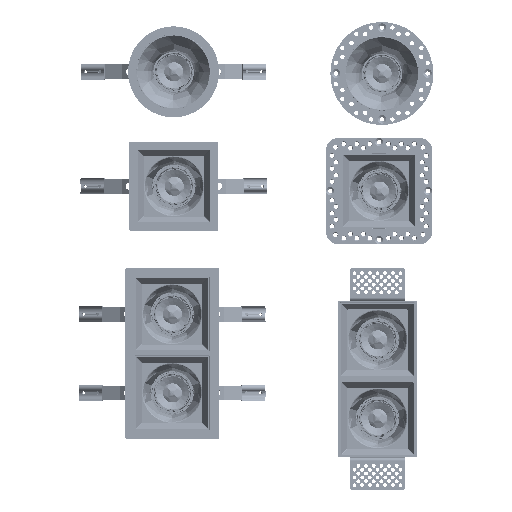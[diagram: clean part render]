
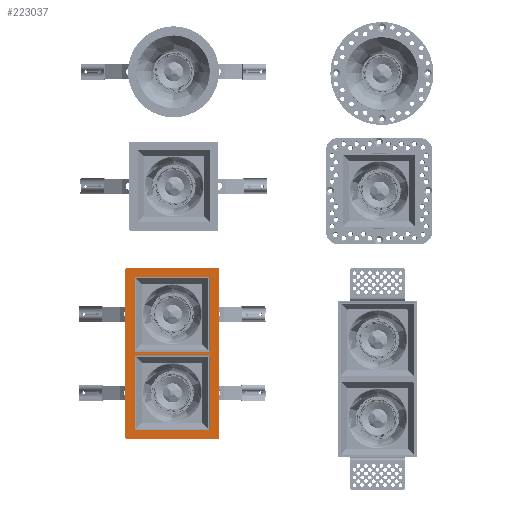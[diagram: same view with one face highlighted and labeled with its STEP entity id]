
A CAD part, front view. The second image highlights one B-rep face of the part: STEP entity #223037.
In plain terms, the highlighted planar face has unit normal (0, -1, 0) as drawn and (0, 0, 1) by its records, which use the part's own axes.
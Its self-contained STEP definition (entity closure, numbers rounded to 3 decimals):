
#1098 = VECTOR ( 'NONE', #60523, 1000. ) ;
#1870 = CARTESIAN_POINT ( 'NONE',  ( 34.6, -70.85, 0. ) ) ;
#2412 = CARTESIAN_POINT ( 'NONE',  ( 42., 78., 0. ) ) ;
#4848 = CARTESIAN_POINT ( 'NONE',  ( 0., 79., 0. ) ) ;
#6542 = DIRECTION ( 'NONE',  ( 0., -1., 0. ) ) ;
#11024 = EDGE_CURVE ( 'NONE', #129749, #217810, #26084, .T. ) ;
#12544 = EDGE_CURVE ( 'NONE', #213336, #33779, #70392, .T. ) ;
#13937 = LINE ( 'NONE', #204328, #71820 ) ;
#14161 = DIRECTION ( 'NONE',  ( 0., 0., -1. ) ) ;
#15219 = EDGE_CURVE ( 'NONE', #241165, #108818, #231488, .T. ) ;
#16939 = EDGE_CURVE ( 'NONE', #243667, #53776, #159318, .T. ) ;
#17371 = PLANE ( 'NONE',  #62013 ) ;
#24857 = CARTESIAN_POINT ( 'NONE',  ( 0., 1.65, 0. ) ) ;
#26084 = LINE ( 'NONE', #24857, #175298 ) ;
#26487 = EDGE_CURVE ( 'NONE', #217810, #166205, #13937, .T. ) ;
#26966 = VERTEX_POINT ( 'NONE', #187889 ) ;
#28302 = LINE ( 'NONE', #177864, #230478 ) ;
#29411 = CARTESIAN_POINT ( 'NONE',  ( 43., 78., 0. ) ) ;
#31636 = CIRCLE ( 'NONE', #201384, 1. ) ;
#32777 = CARTESIAN_POINT ( 'NONE',  ( -42., 78., 0. ) ) ;
#33160 = VECTOR ( 'NONE', #221301, 1000. ) ;
#33779 = VERTEX_POINT ( 'NONE', #235472 ) ;
#34841 = LINE ( 'NONE', #228553, #62262 ) ;
#37009 = VECTOR ( 'NONE', #81787, 1000. ) ;
#40568 = ORIENTED_EDGE ( 'NONE', *, *, #180103, .F. ) ;
#41635 = VERTEX_POINT ( 'NONE', #162244 ) ;
#42305 = ORIENTED_EDGE ( 'NONE', *, *, #106978, .F. ) ;
#47376 = CIRCLE ( 'NONE', #78883, 1. ) ;
#47808 = ORIENTED_EDGE ( 'NONE', *, *, #98203, .F. ) ;
#48511 = DIRECTION ( 'NONE',  ( 0., 0., -1. ) ) ;
#48735 = ORIENTED_EDGE ( 'NONE', *, *, #211602, .F. ) ;
#49126 = CARTESIAN_POINT ( 'NONE',  ( -42., -78., 0. ) ) ;
#51911 = EDGE_LOOP ( 'NONE', ( #42305, #227981, #181948, #69615 ) ) ;
#52532 = DIRECTION ( 'NONE',  ( 1., 0., 0. ) ) ;
#53776 = VERTEX_POINT ( 'NONE', #29411 ) ;
#56925 = FACE_BOUND ( 'NONE', #51911, .T. ) ;
#57014 = EDGE_LOOP ( 'NONE', ( #81157, #174429, #161277, #48735, #88906, #40568, #97460, #143636 ) ) ;
#59311 = DIRECTION ( 'NONE',  ( 1., 0., 0. ) ) ;
#60456 = CARTESIAN_POINT ( 'NONE',  ( 42., -79., 0. ) ) ;
#60523 = DIRECTION ( 'NONE',  ( 1., 0., 0. ) ) ;
#61961 = CARTESIAN_POINT ( 'NONE',  ( -34.6, -1.65, 0. ) ) ;
#62013 = AXIS2_PLACEMENT_3D ( 'NONE', #241277, #225133, #184295 ) ;
#62262 = VECTOR ( 'NONE', #183144, 1000. ) ;
#62452 = DIRECTION ( 'NONE',  ( 0., -1., 0. ) ) ;
#67519 = VECTOR ( 'NONE', #73848, 1000. ) ;
#68840 = DIRECTION ( 'NONE',  ( 1., 0., 0. ) ) ;
#69615 = ORIENTED_EDGE ( 'NONE', *, *, #160097, .F. ) ;
#70392 = LINE ( 'NONE', #145808, #33160 ) ;
#71820 = VECTOR ( 'NONE', #106656, 1000. ) ;
#73848 = DIRECTION ( 'NONE',  ( -1., 0., 0. ) ) ;
#78883 = AXIS2_PLACEMENT_3D ( 'NONE', #216631, #48511, #159732 ) ;
#79798 = ORIENTED_EDGE ( 'NONE', *, *, #89528, .F. ) ;
#79801 = VECTOR ( 'NONE', #6542, 1000. ) ;
#81157 = ORIENTED_EDGE ( 'NONE', *, *, #88770, .F. ) ;
#81787 = DIRECTION ( 'NONE',  ( 1., 0., 0. ) ) ;
#82211 = CARTESIAN_POINT ( 'NONE',  ( 34.6, 70.85, 0. ) ) ;
#84298 = AXIS2_PLACEMENT_3D ( 'NONE', #2412, #154444, #59311 ) ;
#87323 = VERTEX_POINT ( 'NONE', #135430 ) ;
#88151 = VERTEX_POINT ( 'NONE', #61961 ) ;
#88770 = EDGE_CURVE ( 'NONE', #33779, #26966, #101394, .T. ) ;
#88906 = ORIENTED_EDGE ( 'NONE', *, *, #16939, .F. ) ;
#89528 = EDGE_CURVE ( 'NONE', #41635, #129749, #34841, .T. ) ;
#91474 = CARTESIAN_POINT ( 'NONE',  ( -42., 79., 0. ) ) ;
#93837 = CARTESIAN_POINT ( 'NONE',  ( -43., -36.25, 0. ) ) ;
#97460 = ORIENTED_EDGE ( 'NONE', *, *, #138350, .F. ) ;
#98203 = EDGE_CURVE ( 'NONE', #166205, #41635, #172607, .T. ) ;
#98817 = CARTESIAN_POINT ( 'NONE',  ( 43., -78., 0. ) ) ;
#100481 = LINE ( 'NONE', #195678, #79801 ) ;
#101394 = CIRCLE ( 'NONE', #228030, 1. ) ;
#106456 = DIRECTION ( 'NONE',  ( -1., 0., 0. ) ) ;
#106656 = DIRECTION ( 'NONE',  ( 0., 1., 0. ) ) ;
#106978 = EDGE_CURVE ( 'NONE', #108818, #115872, #28302, .T. ) ;
#108818 = VERTEX_POINT ( 'NONE', #1870 ) ;
#114778 = DIRECTION ( 'NONE',  ( 0., 1., 0. ) ) ;
#115872 = VERTEX_POINT ( 'NONE', #217917 ) ;
#121329 = LINE ( 'NONE', #164536, #122997 ) ;
#122997 = VECTOR ( 'NONE', #106456, 1000. ) ;
#125535 = VECTOR ( 'NONE', #62452, 1000. ) ;
#128834 = VECTOR ( 'NONE', #114778, 1000. ) ;
#129749 = VERTEX_POINT ( 'NONE', #204298 ) ;
#135430 = CARTESIAN_POINT ( 'NONE',  ( -43., 78., 0. ) ) ;
#136447 = EDGE_CURVE ( 'NONE', #200855, #213336, #47376, .T. ) ;
#138350 = EDGE_CURVE ( 'NONE', #87323, #147493, #31636, .T. ) ;
#143372 = CARTESIAN_POINT ( 'NONE',  ( 42., 79., 0. ) ) ;
#143636 = ORIENTED_EDGE ( 'NONE', *, *, #221865, .F. ) ;
#145808 = CARTESIAN_POINT ( 'NONE',  ( 0., -79., 0. ) ) ;
#146670 = DIRECTION ( 'NONE',  ( 0., 0., -1. ) ) ;
#147493 = VERTEX_POINT ( 'NONE', #91474 ) ;
#154444 = DIRECTION ( 'NONE',  ( 0., 0., -1. ) ) ;
#155261 = EDGE_LOOP ( 'NONE', ( #79798, #47808, #200391, #223161 ) ) ;
#156375 = LINE ( 'NONE', #231875, #125535 ) ;
#159318 = CIRCLE ( 'NONE', #84298, 1. ) ;
#159732 = DIRECTION ( 'NONE',  ( 1., 0., 0. ) ) ;
#160097 = EDGE_CURVE ( 'NONE', #115872, #88151, #121329, .T. ) ;
#161277 = ORIENTED_EDGE ( 'NONE', *, *, #136447, .F. ) ;
#162244 = CARTESIAN_POINT ( 'NONE',  ( -34.6, 70.85, 0. ) ) ;
#164536 = CARTESIAN_POINT ( 'NONE',  ( 0., -1.65, 0. ) ) ;
#166205 = VERTEX_POINT ( 'NONE', #82211 ) ;
#168992 = CARTESIAN_POINT ( 'NONE',  ( 0., 70.85, 0. ) ) ;
#172607 = LINE ( 'NONE', #168992, #67519 ) ;
#174429 = ORIENTED_EDGE ( 'NONE', *, *, #12544, .F. ) ;
#175298 = VECTOR ( 'NONE', #194222, 1000. ) ;
#175407 = LINE ( 'NONE', #4848, #1098 ) ;
#177864 = CARTESIAN_POINT ( 'NONE',  ( 34.6, -36.25, 0. ) ) ;
#180103 = EDGE_CURVE ( 'NONE', #147493, #243667, #175407, .T. ) ;
#181948 = ORIENTED_EDGE ( 'NONE', *, *, #202216, .F. ) ;
#183144 = DIRECTION ( 'NONE',  ( 0., -1., 0. ) ) ;
#184295 = DIRECTION ( 'NONE',  ( 0., -1., 0. ) ) ;
#187889 = CARTESIAN_POINT ( 'NONE',  ( -43., -78., 0. ) ) ;
#193092 = CARTESIAN_POINT ( 'NONE',  ( 0., -70.85, 0. ) ) ;
#194222 = DIRECTION ( 'NONE',  ( 1., 0., 0. ) ) ;
#195678 = CARTESIAN_POINT ( 'NONE',  ( 43., -36.25, 0. ) ) ;
#197820 = CARTESIAN_POINT ( 'NONE',  ( 34.6, 1.65, 0. ) ) ;
#200391 = ORIENTED_EDGE ( 'NONE', *, *, #26487, .F. ) ;
#200855 = VERTEX_POINT ( 'NONE', #98817 ) ;
#201384 = AXIS2_PLACEMENT_3D ( 'NONE', #32777, #14161, #52532 ) ;
#202216 = EDGE_CURVE ( 'NONE', #88151, #241165, #156375, .T. ) ;
#204298 = CARTESIAN_POINT ( 'NONE',  ( -34.6, 1.65, 0. ) ) ;
#204328 = CARTESIAN_POINT ( 'NONE',  ( 34.6, -36.25, 0. ) ) ;
#205317 = FACE_OUTER_BOUND ( 'NONE', #57014, .T. ) ;
#211602 = EDGE_CURVE ( 'NONE', #53776, #200855, #100481, .T. ) ;
#213336 = VERTEX_POINT ( 'NONE', #60456 ) ;
#216233 = DIRECTION ( 'NONE',  ( 0., 1., 0. ) ) ;
#216631 = CARTESIAN_POINT ( 'NONE',  ( 42., -78., 0. ) ) ;
#217810 = VERTEX_POINT ( 'NONE', #197820 ) ;
#217917 = CARTESIAN_POINT ( 'NONE',  ( 34.6, -1.65, 0. ) ) ;
#221301 = DIRECTION ( 'NONE',  ( -1., 0., 0. ) ) ;
#221528 = CARTESIAN_POINT ( 'NONE',  ( -34.6, -70.85, 0. ) ) ;
#221865 = EDGE_CURVE ( 'NONE', #26966, #87323, #226198, .T. ) ;
#223037 = ADVANCED_FACE ( 'NONE', ( #56925, #226336, #205317 ), #17371, .F. ) ;
#223161 = ORIENTED_EDGE ( 'NONE', *, *, #11024, .F. ) ;
#225133 = DIRECTION ( 'NONE',  ( 0., 0., -1. ) ) ;
#226198 = LINE ( 'NONE', #93837, #128834 ) ;
#226336 = FACE_BOUND ( 'NONE', #155261, .T. ) ;
#227981 = ORIENTED_EDGE ( 'NONE', *, *, #15219, .F. ) ;
#228030 = AXIS2_PLACEMENT_3D ( 'NONE', #49126, #146670, #68840 ) ;
#228553 = CARTESIAN_POINT ( 'NONE',  ( -34.6, -36.25, 0. ) ) ;
#230478 = VECTOR ( 'NONE', #216233, 1000. ) ;
#231488 = LINE ( 'NONE', #193092, #37009 ) ;
#231875 = CARTESIAN_POINT ( 'NONE',  ( -34.6, -36.25, 0. ) ) ;
#235472 = CARTESIAN_POINT ( 'NONE',  ( -42., -79., 0. ) ) ;
#241165 = VERTEX_POINT ( 'NONE', #221528 ) ;
#241277 = CARTESIAN_POINT ( 'NONE',  ( 0., -36.25, 0. ) ) ;
#243667 = VERTEX_POINT ( 'NONE', #143372 ) ;
